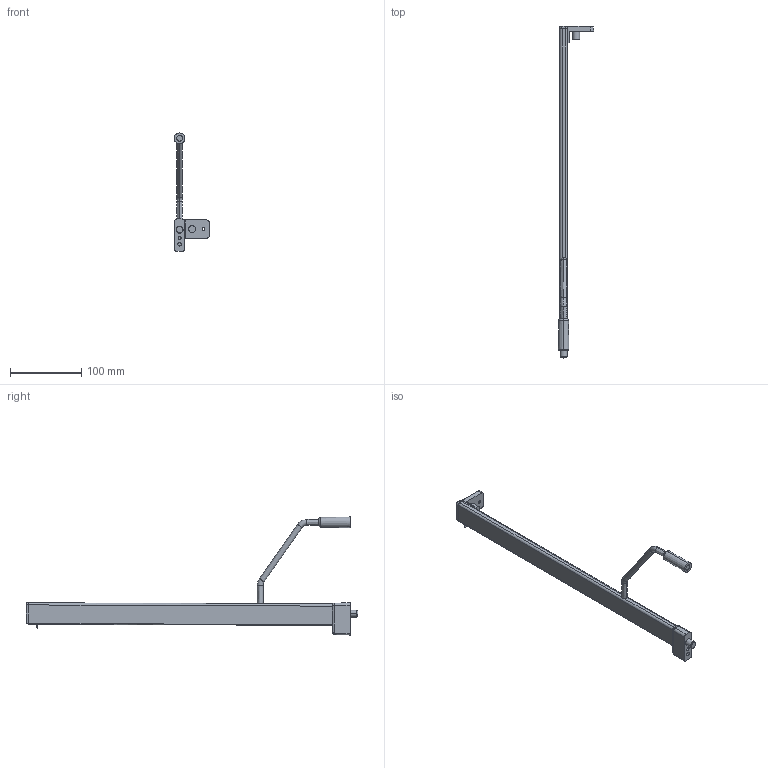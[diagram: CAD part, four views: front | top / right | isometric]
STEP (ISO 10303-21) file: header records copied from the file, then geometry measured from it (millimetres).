
FILE_DESCRIPTION (( 'STEP AP214' ), '1' );
FILE_NAME ('_2S_REL_7606_NL450_LI_Frontstütze.step', '2010-07-01T14:42:05', ( 'grass' ), ( '' ), 'SwSTEP 2.0', 'SolidWorks 2009', '' );
FILE_SCHEMA (( 'AUTOMOTIVE_DESIGN' ));
Length unit declared in the file: millimetre
Products named in the file (1): _2S_REL_7606_NL450_LI_Frontstütze
Bounding box: 49.75 x 465.5 x 165.5 mm (x, y, z)
Volume: 168914.1 mm3; surface area: 47521.9 mm2
Topology: 2 solids, 2 shells, 142 faces, 337 edges, 203 vertices
Faces by surface type: cylinder 60, plane 46, bspline 16, torus 12, cone 6, sphere 2
Entity records: 5241 total; most frequent: CARTESIAN_POINT 2069, ORIENTED_EDGE 670, DIRECTION 647, EDGE_CURVE 335, AXIS2_PLACEMENT_3D 247, VERTEX_POINT 203, LINE 153, VECTOR 153
